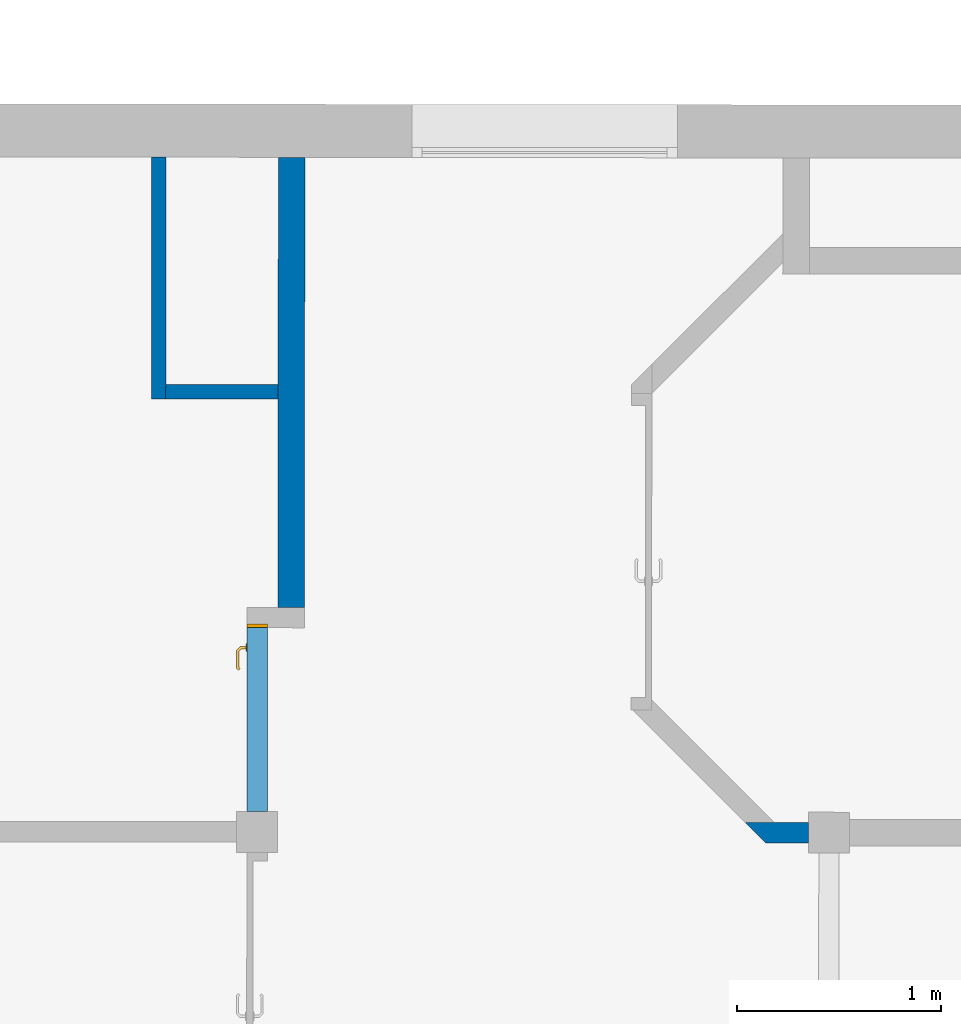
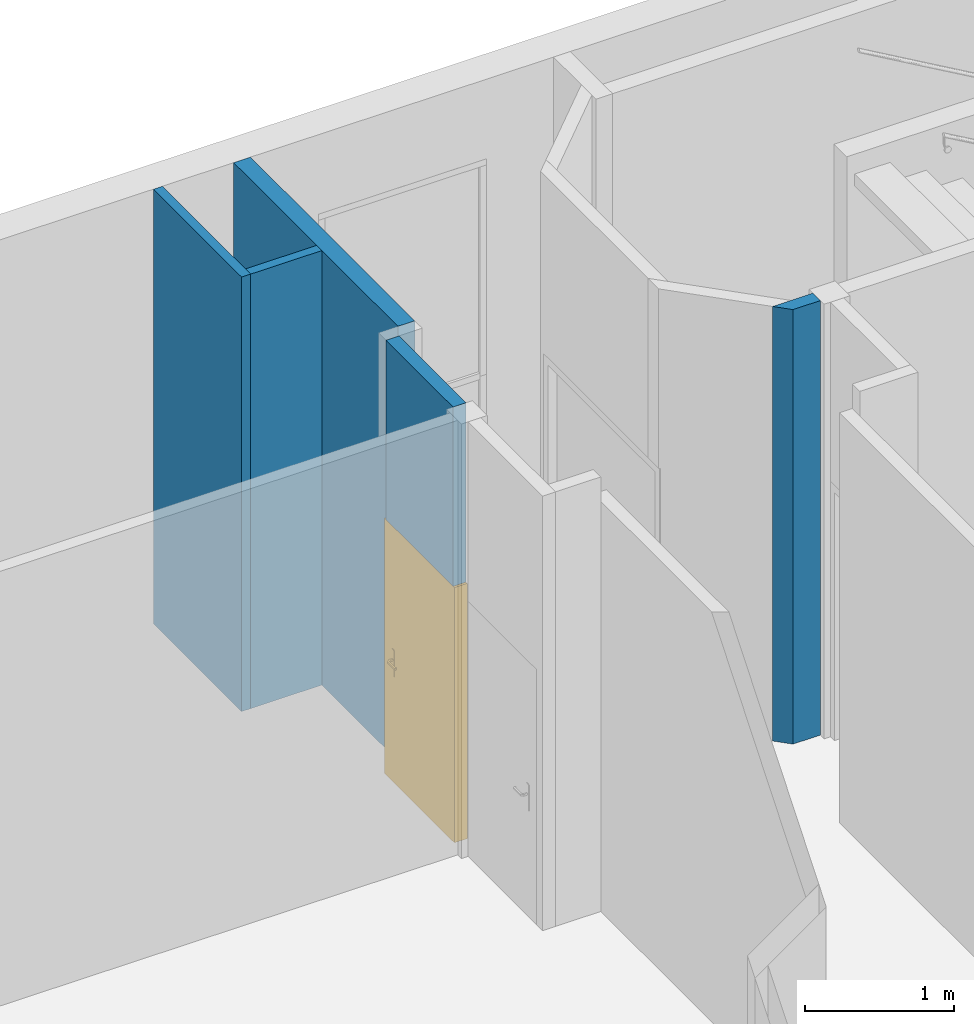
# One storey, part 66 of 101: 5 walls, 1 door, 1 opening.
"""IFC2X3 building model written with IfcOpenShell, lengths in metres."""

import ifcopenshell
import ifcopenshell.guid

model = None  # the IFC model being written
_history = None  # IfcOwnerHistory: only IFC2X3 demands one
_inside = {}  # id of a spatial element -> (the spatial element, [elements in it])
_under = {}  # id of a project, library or spatial element -> (it, [spatial elements below it])
_declared = {}  # id of a project -> (the project, [libraries it declares])
_typed = {}  # id of a type object -> (the type object, [elements of that type])
_made_of = {}  # id of a material, layer set ... -> (it, [elements and type objects made of it])


def new_model(schema):
    """Start an empty IFC model of exactly this schema.

    Asked for "IFC4X3", IfcOpenShell would pick the latest addendum, in which some entities
    have other attributes; the version numbers below select the first issue.
    IFC2X3 requires an IfcOwnerHistory on every rooted entity: one is made here for all.
    """
    global model, _history
    if schema == "IFC4X3":
        model = ifcopenshell.file(schema_version=(4, 3, 0, 0))
    else:
        model = ifcopenshell.file(schema=schema)
    _inside.clear()
    _under.clear()
    _declared.clear()
    _typed.clear()
    _made_of.clear()
    _history = None
    if model.schema == "IFC2X3":
        org = make("IfcOrganization", Name="unknown")
        user = make(
            "IfcPersonAndOrganization",
            ThePerson=make("IfcPerson", FamilyName="unknown"),
            TheOrganization=org,
        )
        app = make(
            "IfcApplication",
            ApplicationDeveloper=org,
            Version="unknown",
            ApplicationFullName="unknown",
            ApplicationIdentifier="unknown",
        )
        _history = make(
            "IfcOwnerHistory",
            OwningUser=user,
            OwningApplication=app,
            ChangeAction="ADDED",
            CreationDate=0,
        )
    return model


def make(cls, **values):
    """One entity of the class cls with the attributes given. An attribute that is None is left unset."""
    return model.create_entity(
        cls, **{name: value for name, value in values.items() if value is not None}
    )


def entity(cls, *values):
    """Any entity or typed value of the class cls, its attributes in the order of the schema. None: left unset."""
    e = model.create_entity(cls)
    for i, value in enumerate(values):
        if value is not None:
            e[i] = value
    return e


def rooted(cls, **values):
    """An entity with a GlobalId (a new one), such as an element, a storey or a relation."""
    return make(cls, GlobalId=ifcopenshell.guid.new(), OwnerHistory=_history, **values)


def si_unit(unit_type, name, prefix=None):
    """IfcSIUnit, for example si_unit("LENGTHUNIT", "METRE", prefix="MILLI")."""
    return make("IfcSIUnit", UnitType=unit_type, Prefix=prefix, Name=name)


def converted_unit(unit_type, name, factor, base, dimensions=None, offset=None):
    """IfcConversionBasedUnit, such as the inch: factor (a typed value) times the base unit."""
    return make(
        "IfcConversionBasedUnit"
        if offset is None
        else "IfcConversionBasedUnitWithOffset",
        ConversionOffset=offset,
        Dimensions=None
        if dimensions is None
        else entity("IfcDimensionalExponents", *dimensions),
        UnitType=unit_type,
        Name=name,
        ConversionFactor=make(
            "IfcMeasureWithUnit", ValueComponent=factor, UnitComponent=base
        ),
    )


def derived_unit(unit_type, elements):
    """IfcDerivedUnit: a product of units, each with its exponent."""
    return make(
        "IfcDerivedUnit",
        Elements=[
            make("IfcDerivedUnitElement", Unit=unit, Exponent=power)
            for unit, power in elements
        ],
        UnitType=unit_type,
    )


def assignment(units):
    """IfcUnitAssignment: the units of a project."""
    return None if units is None else make("IfcUnitAssignment", Units=units)


def point(xyz):
    """IfcCartesianPoint."""
    return None if xyz is None else make("IfcCartesianPoint", Coordinates=xyz)


def direction(xyz):
    """IfcDirection."""
    return None if xyz is None else make("IfcDirection", DirectionRatios=xyz)


def frame(location, z_axis=None, x_axis=None):
    """IfcAxis2Placement3D, a coordinate frame: its origin and axes. An axis left out is left unset."""
    return make(
        "IfcAxis2Placement3D",
        Location=point(location),
        Axis=direction(z_axis),
        RefDirection=direction(x_axis),
    )


def frame_2d(location, x_axis=None):
    """IfcAxis2Placement2D, a coordinate frame in the plane: its origin and x axis."""
    return make(
        "IfcAxis2Placement2D", Location=point(location), RefDirection=direction(x_axis)
    )


def origin():
    """The frame at (0, 0, 0) with its axes left unset."""
    return frame((0.0, 0.0, 0.0))


def place(relative_to, where):
    """IfcLocalPlacement: puts the frame where relative to a parent placement (None: the world)."""
    return make(
        "IfcLocalPlacement", PlacementRelTo=relative_to, RelativePlacement=where
    )


def context(
    kind, dimensions, precision=None, world=None, true_north=None, identifier=None
):
    """IfcGeometricRepresentationContext, for example the 3D "Model" context."""
    return make(
        "IfcGeometricRepresentationContext",
        ContextIdentifier=identifier,
        ContextType=kind,
        CoordinateSpaceDimension=dimensions,
        Precision=precision,
        WorldCoordinateSystem=world,
        TrueNorth=true_north,
    )


def subcontext(parent, identifier, kind, view, scale=None):
    """IfcGeometricRepresentationSubContext, for example "Body" below "Model"."""
    return make(
        "IfcGeometricRepresentationSubContext",
        ContextIdentifier=identifier,
        ContextType=kind,
        ParentContext=parent,
        TargetScale=scale,
        TargetView=view,
    )


def project(units=None, contexts=None):
    """IfcProject with its units and contexts."""
    return rooted(
        "IfcProject",
        Name="project",
        RepresentationContexts=contexts,
        UnitsInContext=assignment(units),
    )


def spatial(cls, under=None, at=None, **own):
    """A site, building, storey or space (cls), placed at a placement, below another one or the project."""
    s = rooted(cls, ObjectPlacement=at, **own)
    if under is not None:
        _under.setdefault(under.id(), (under, []))[1].append(s)
    return s


def polyline(points):
    """IfcPolyline through the points."""
    return make("IfcPolyline", Points=[point(p) for p in points])


def profile(cls, at=None, kind="AREA", **sizes):
    """A parametric profile (cls). Its sizes go by their IFC names, for example OverallWidth=200.0."""
    return make(cls, ProfileType=kind, Position=at, **sizes)


def rectangle(**sizes):
    """IfcRectangleProfileDef."""
    return profile("IfcRectangleProfileDef", **sizes)


def outline(outer, holes=None, kind="AREA"):
    """IfcArbitraryClosedProfileDef: a profile drawn as a closed curve; with holes, ...WithVoids."""
    if holes is None:
        return make("IfcArbitraryClosedProfileDef", ProfileType=kind, OuterCurve=outer)
    return make(
        "IfcArbitraryProfileDefWithVoids",
        ProfileType=kind,
        OuterCurve=outer,
        InnerCurves=holes,
    )


def extrude(swept, where, along, depth):
    """IfcExtrudedAreaSolid: the profile swept, set in the frame where, extruded along a direction by depth."""
    return make(
        "IfcExtrudedAreaSolid",
        SweptArea=swept,
        Position=where,
        ExtrudedDirection=direction(along),
        Depth=depth,
    )


def faces_of(points, faces, orient=None, outer=None):
    """IfcFace entities. A face is a list of loops; a loop is a list of indices into points, from 0.

    orient and outer hold one flag for each loop. By default every Orientation is true, the
    first loop of a face is its IfcFaceOuterBound and the others are IfcFaceBound.
    """
    made = []
    for i, loops in enumerate(faces):
        bounds = []
        for j, loop in enumerate(loops):
            is_outer = j == 0 if outer is None else outer[i][j]
            bounds.append(
                make(
                    "IfcFaceOuterBound" if is_outer else "IfcFaceBound",
                    Bound=make("IfcPolyLoop", Polygon=[points[k] for k in loop]),
                    Orientation=True if orient is None else orient[i][j],
                )
            )
        made.append(make("IfcFace", Bounds=bounds))
    return made


def faceted_brep(points, faces, orient=None, outer=None, voids=None):
    """IfcFacetedBrep: a solid bounded by flat faces; with voids (closed shells), ...WithVoids."""
    shared = [point(p) for p in points]
    hull = make("IfcClosedShell", CfsFaces=faces_of(shared, faces, orient, outer))
    if voids is None:
        return make("IfcFacetedBrep", Outer=hull)
    return make(
        "IfcFacetedBrepWithVoids",
        Outer=hull,
        Voids=[
            make(cls, CfsFaces=faces_of(shared, fs, o, b)) for cls, fs, o, b in voids
        ],
    )


def shape(context_of_items, identifier, shape_type, items):
    """IfcShapeRepresentation: the items that make up one representation, for example the "Body"."""
    return make(
        "IfcShapeRepresentation",
        ContextOfItems=context_of_items,
        RepresentationIdentifier=identifier,
        RepresentationType=shape_type,
        Items=items,
    )


def source(mapping_origin, context_of_items, identifier, shape_type, items):
    """IfcRepresentationMap: a shape defined once, which mapped items show again and again."""
    return make(
        "IfcRepresentationMap",
        MappingOrigin=mapping_origin,
        MappedRepresentation=shape(context_of_items, identifier, shape_type, items),
    )


def transform(
    local_origin,
    x_axis=None,
    y_axis=None,
    z_axis=None,
    scale=None,
    scale2=None,
    scale3=None,
    uniform=True,
):
    """IfcCartesianTransformationOperator3D, or its non-uniform kind. x_axis, y_axis, z_axis: its Axis1, 2, 3."""
    if uniform:
        return make(
            "IfcCartesianTransformationOperator3D",
            Axis1=direction(x_axis),
            Axis2=direction(y_axis),
            LocalOrigin=point(local_origin),
            Scale=scale,
            Axis3=direction(z_axis),
        )
    return make(
        "IfcCartesianTransformationOperator3DnonUniform",
        Axis1=direction(x_axis),
        Axis2=direction(y_axis),
        LocalOrigin=point(local_origin),
        Scale=scale,
        Axis3=direction(z_axis),
        Scale2=scale2,
        Scale3=scale3,
    )


def mapped(mapping_source, mapping_target):
    """IfcMappedItem: shows the shape of a source again, moved by a transform."""
    return make(
        "IfcMappedItem", MappingSource=mapping_source, MappingTarget=mapping_target
    )


def material(Name=None, Category=None):
    """IfcMaterial."""
    return make("IfcMaterial", Name=Name, Category=Category)


def material_list(materials):
    """IfcMaterialList."""
    return make("IfcMaterialList", Materials=materials)


def layer(
    of_material, thickness, ventilated=None, Name=None, Category=None, Priority=None
):
    """IfcMaterialLayer: one layer of a wall or slab, of a material (None: an air gap)."""
    return make(
        "IfcMaterialLayer",
        Material=of_material,
        LayerThickness=thickness,
        IsVentilated=ventilated,
        Name=Name,
        Category=Category,
        Priority=Priority,
    )


def layer_set(layers, Name=None):
    """IfcMaterialLayerSet."""
    return make("IfcMaterialLayerSet", MaterialLayers=layers, LayerSetName=Name)


def layer_usage(for_layer_set, set_direction, sense, offset, extent=None):
    """IfcMaterialLayerSetUsage: how a layer set lies in its element."""
    return make(
        "IfcMaterialLayerSetUsage",
        ForLayerSet=for_layer_set,
        LayerSetDirection=set_direction,
        DirectionSense=sense,
        OffsetFromReferenceLine=offset,
        ReferenceExtent=extent,
    )


def made_of(thing, what):
    """Note that an element or type object is made of a material, layer set ...; save() writes the relation."""
    if what is not None:
        _made_of.setdefault(what.id(), (what, []))[1].append(thing)
    return thing


def type_object(cls, material=None, **own):
    """A type object (cls), such as IfcWallType, which elements share."""
    return made_of(rooted(cls, **own), material)


def type_shapes(of_type, sources):
    """Give a type object the sources (RepresentationMaps) that its elements show as mapped items."""
    of_type.RepresentationMaps = sources


def element(
    cls,
    number,
    at=None,
    inside=None,
    cuts=None,
    type_object=None,
    material=None,
    context=None,
    identifier="Body",
    shape_type=None,
    held_by="IfcProductDefinitionShape",
    body=None,
    shapes=None,
    **own,
):
    """One element of the class cls, such as IfcWall. Its Tag is "e" and its number.

    at: its placement. inside: the storey or other place that contains it. cuts: it is an
    opening in that element (IfcRelVoidsElement). A single representation is given by context,
    identifier, shape_type and body (its items); several are given by shapes. held_by: the class
    of the entity that holds the representations. save() writes the other relations.
    """
    e = rooted(cls, Tag="e%d" % number, ObjectPlacement=at, **own)
    if body is not None:
        shapes = [shape(context, identifier, shape_type, body)]
    if shapes is not None:
        e.Representation = make(held_by, Representations=shapes)
    if inside is not None:
        _inside.setdefault(inside.id(), (inside, []))[1].append(e)
    if cuts is not None:
        rooted(
            "IfcRelVoidsElement", RelatingBuildingElement=cuts, RelatedOpeningElement=e
        )
    if type_object is not None:
        _typed.setdefault(type_object.id(), (type_object, []))[1].append(e)
    return made_of(e, material)


def fill(opening, filler):
    """IfcRelFillsElement: the door or window that sits in an opening."""
    return rooted(
        "IfcRelFillsElement",
        RelatingOpeningElement=opening,
        RelatedBuildingElement=filler,
    )


def aggregate(whole, parts):
    """IfcRelAggregates: a whole, such as a stair, and the parts it consists of."""
    return rooted("IfcRelAggregates", RelatingObject=whole, RelatedObjects=parts)


def save(model, path):
    """Write the relations noted so far, then the file.

    IfcRelAggregates (storeys below a building ...), IfcRelContainedInSpatialStructure (elements
    in a storey), IfcRelDefinesByType, IfcRelAssociatesMaterial and IfcRelDeclares: one each for
    every whole, place, type object, material and project.
    """
    for whole, parts in _under.values():
        aggregate(whole, parts)
    for where, things in _inside.values():
        rooted(
            "IfcRelContainedInSpatialStructure",
            RelatedElements=things,
            RelatingStructure=where,
        )
    for kind, things in _typed.values():
        rooted("IfcRelDefinesByType", RelatedObjects=things, RelatingType=kind)
    for what, things in _made_of.values():
        rooted("IfcRelAssociatesMaterial", RelatedObjects=things, RelatingMaterial=what)
    for by, libraries in _declared.values():
        rooted("IfcRelDeclares", RelatingContext=by, RelatedDefinitions=libraries)
    model.write(path)


model = new_model("IFC2X3")

# Units and contexts
model_context = context("Model", 3, precision=1e-05, world=origin(), true_north=direction((6.123233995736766e-17, 1.0)))
body_context = subcontext(model_context, "Body", "Model", "MODEL_VIEW")
ifc_project = project(units=[si_unit("LENGTHUNIT", "METRE"), si_unit("AREAUNIT", "SQUARE_METRE"), converted_unit("PLANEANGLEUNIT", "DEGREE", entity("IfcPlaneAngleMeasure", 0.017453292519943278), si_unit("PLANEANGLEUNIT", "RADIAN"), dimensions=[0, 0, 0, 0, 0, 0, 0]), derived_unit("THERMALTRANSMITTANCEUNIT", [(si_unit("MASSUNIT", "GRAM", prefix="KILO"), 1), (si_unit("THERMODYNAMICTEMPERATUREUNIT", "KELVIN"), -1), (si_unit("TIMEUNIT", "SECOND"), -3)])], contexts=[model_context])

# Site, building, storey
site_placement = place(None, frame((1253.6752467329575, 2072.143113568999, 91.49999999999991), z_axis=(0.0, 0.0, 1.0), x_axis=(0.7237211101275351, 0.6900925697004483, 0.0)))
site = spatial("IfcSite", under=ifc_project, at=site_placement, Name="Surface", CompositionType="ELEMENT")
building_placement = place(site_placement, origin())
building = spatial("IfcBuilding", under=site, at=building_placement, CompositionType="ELEMENT")
storey_placement = place(building_placement, origin())
storey = spatial("IfcBuildingStorey", under=building, at=storey_placement, Name="0- Rdc", CompositionType="ELEMENT", Elevation=-5.764692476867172e-13)

# Walls
ifc_material_1 = material(Name="OMD_Béton blanc")
ifc_layer_1 = layer(ifc_material_1, 0.12999999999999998)
ifc_layer_set_1 = layer_set([ifc_layer_1], Name="Mur de base:MUR 13")
ifc_layer_usage_1 = layer_usage(ifc_layer_set_1, "AXIS2", "NEGATIVE", 0.06499999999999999)
wall_type_1 = type_object("IfcWallType", Name="Mur de base:MUR 13", PredefinedType="STANDARD", material=ifc_layer_set_1)
wall_1_placement = place(storey_placement, frame((170.15664312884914, 23.561649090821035, 0.0), z_axis=(0.0, 0.0, 1.0), x_axis=(-0.6909838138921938, -0.7228702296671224, 0.0)))
element("IfcWallStandardCase", 1, at=wall_1_placement, inside=storey, type_object=wall_type_1, material=ifc_layer_usage_1, Name="Mur de base:MUR 13", ObjectType="Mur de base:MUR 13", context=body_context, shape_type="SweptSolid", body=[
    extrude(rectangle(XDim=2.2031400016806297, YDim=0.12999999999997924, at=frame_2d((1.1015700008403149, 2.0816681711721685e-16), x_axis=(-1.0, 0.0))), origin(), (0.0, 0.0, 1.0), 3.5499999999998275),
])
ifc_layer_2 = layer(ifc_material_1, 0.1)
ifc_layer_set_2 = layer_set([ifc_layer_2], Name="Mur de base:MUR 10")
ifc_layer_usage_2 = layer_usage(ifc_layer_set_2, "AXIS2", "NEGATIVE", 0.05)
wall_type_2 = type_object("IfcWallType", Name="Mur de base:MUR 10", PredefinedType="STANDARD", material=ifc_layer_set_2)
wall_2_placement = place(storey_placement, frame((169.70670288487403, 19.422263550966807, 0.0), z_axis=(0.0, 0.0, 1.0), x_axis=(-0.7228702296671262, 0.6909838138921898, 0.0)))
element("IfcWallStandardCase", 2, at=wall_2_placement, inside=storey, type_object=wall_type_2, material=ifc_layer_usage_2, Name="Mur de base:MUR 10", ObjectType="Mur de base:MUR 10", context=body_context, shape_type="SweptSolid", body=[
    extrude(outline(polyline([(-0.1505096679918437, -0.0939411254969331), (-0.009088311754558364, -0.0939411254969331), (0.14040916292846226, 0.05555634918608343), (0.06969848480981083, 0.12626702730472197), (-0.05050966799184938, 0.006058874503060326), (-0.1505096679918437, -0.0939411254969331)])), frame((0.1385685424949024, -0.009999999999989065, 0.0), z_axis=(0.0, 0.0, 1.0), x_axis=(-0.707106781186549, 0.7071067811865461, 0.0)), (0.0, 0.0, 1.0), 3.5499999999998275),
])

# Wall, opening, door
ifc_layer_usage_3 = layer_usage(ifc_layer_set_2, "AXIS2", "NEGATIVE", 0.05)
wall_3_placement = place(storey_placement, frame((167.82405164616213, 21.360206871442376, 2.0850000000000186), z_axis=(0.0, 0.0, 1.0), x_axis=(0.6909838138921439, 0.72287022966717, 0.0)))
wall_3 = element("IfcWallStandardCase", 3, at=wall_3_placement, inside=storey, type_object=wall_type_2, material=ifc_layer_usage_3, Name="Mur de base:MUR 10", ObjectType="Mur de base:MUR 10", context=body_context, shape_type="SweptSolid", body=[
    extrude(rectangle(XDim=0.9000000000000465, YDim=0.10000000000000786, at=frame_2d((0.45000000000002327, -7.008282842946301e-16), x_axis=(-1.0, 0.0))), origin(), (0.0, 0.0, 1.0), 1.464999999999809),
])
opening_placement = place(wall_3_placement, frame((-0.017499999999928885, -0.049999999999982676, -2.0850000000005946)))
opening = element("IfcOpeningElement", 4, at=opening_placement, cuts=wall_3, Name="OMD_Porte 1V tunnel:80x204:1", ObjectType="Opening", context=body_context, shape_type="SweptSolid", body=[
    extrude(rectangle(XDim=2.0850000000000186, YDim=0.9349999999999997, at=frame_2d((1.0425000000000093, 0.46749999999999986), x_axis=(1.0, 0.0))), frame((0.0, 0.0, 0.0), z_axis=(0.0, 1.0, 0.0), x_axis=(0.0, 0.0, 1.0)), (0.0, 0.0, 1.0), 0.1),
])
ifc_material_2 = material(Name="Porte - Poignée")
ifc_material_3 = material(Name="OMD_Peinture mur")
ifc_material_4 = material(Name="OMD_Bois")
ifc_material_list = material_list([ifc_material_2, ifc_material_3, ifc_material_4])
door_style = type_object("IfcDoorStyle", Name="OMD_Porte 1V tunnel:80x204", ConstructionType="NOTDEFINED", OperationType="NOTDEFINED", ParameterTakesPrecedence=False, Sizeable=False, material=ifc_material_list)
shared_shape = source(origin(), body_context, "Body", "Brep", [
    faceted_brep([(0.21297470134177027, 0.03500000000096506, 1.0077804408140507), (0.20900000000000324, 0.03500000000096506, 1.0069999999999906), (0.208999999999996, 0.03500000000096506, 0.9929999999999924), (0.21297470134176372, 0.03500000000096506, 0.9922195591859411), (0.21702529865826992, 0.03500000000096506, 0.9922195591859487), (0.22100000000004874, 0.03500000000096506, 0.9930000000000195), (0.22100000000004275, 0.03500000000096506, 1.0069999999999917), (0.2170252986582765, 0.03500000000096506, 1.007780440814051), (0.22100000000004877, 0.05748520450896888, 0.9930000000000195), (0.22100000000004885, 0.057485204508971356, 1.0069999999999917), (0.21702529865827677, 0.059131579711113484, 1.007780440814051), (0.23083890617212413, 0.07294518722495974, 1.007780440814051), (0.2291610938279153, 0.07699578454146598, 1.0077804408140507), (0.21297470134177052, 0.060809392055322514, 1.0077804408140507), (0.3206847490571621, 0.0664673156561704, 1.0077804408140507), (0.32354895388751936, 0.06933152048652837, 1.0077804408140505), (0.31588468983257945, 0.07699578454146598, 1.0077804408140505), (0.31420687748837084, 0.07294518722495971, 1.0077804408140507), (0.20900000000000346, 0.06245576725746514, 1.0069999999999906), (0.20900000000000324, 0.06245576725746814, 0.9929999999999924), (0.21297470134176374, 0.06080939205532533, 0.9922195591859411), (0.22916109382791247, 0.07699578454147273, 0.9922195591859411), (0.23083890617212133, 0.07294518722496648, 0.9922195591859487), (0.21702529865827, 0.05913157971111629, 0.9922195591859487), (0.32354895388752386, 0.06933152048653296, 0.9922195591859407), (0.3206847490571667, 0.06646731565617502, 0.9922195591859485), (0.3142068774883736, 0.07294518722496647, 0.9922195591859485), (0.3158846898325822, 0.07699578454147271, 0.9922195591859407), (0.23248528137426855, 0.0689704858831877, 0.9930000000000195), (0.23248528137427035, 0.06897048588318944, 1.0069999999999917), (0.22751471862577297, 0.0809704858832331, 1.0069999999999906), (0.22751471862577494, 0.08097048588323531, 0.9929999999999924), (0.2725228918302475, 0.06897048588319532, 0.9930000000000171), (0.3125605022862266, 0.06897048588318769, 0.9930000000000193), (0.31256050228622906, 0.06897048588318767, 1.0069999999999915), (0.2725228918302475, 0.0689704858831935, 1.0069999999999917), (0.2725228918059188, 0.07512492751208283, 1.0078781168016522), (0.31753106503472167, 0.08097048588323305, 1.0069999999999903), (0.2776005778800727, 0.08097048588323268, 1.0069999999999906), (0.31753106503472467, 0.08097048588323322, 0.9929999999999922), (0.2674452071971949, 0.08097048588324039, 0.9929999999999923), (0.2725228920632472, 0.07512492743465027, 0.9921218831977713), (0.317874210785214, 0.06365677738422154, 0.9930000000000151), (0.32635949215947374, 0.07214205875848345, 0.99299999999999), (0.3263594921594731, 0.07214205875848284, 1.0069999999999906), (0.317874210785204, 0.06365677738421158, 1.0069999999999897)], [[[0, 1, 2, 3, 4, 5, 6, 7]], [[6, 5, 8, 9]], [[9, 10, 7, 6]], [[10, 11, 12, 13, 0, 7]], [[14, 15, 16, 17]], [[13, 18, 1, 0]], [[2, 1, 18, 19]], [[19, 20, 3, 2]], [[20, 21, 22, 23, 4, 3]], [[24, 25, 26, 27]], [[23, 8, 5, 4]], [[9, 8, 28, 29]], [[29, 11, 10, 9]], [[12, 30, 18, 13]], [[19, 18, 30, 31]], [[31, 21, 20, 19]], [[22, 28, 8, 23]], [[29, 28, 32, 33, 34, 35]], [[11, 35, 36]], [[16, 37, 38]], [[30, 12, 38]], [[38, 12, 36]], [[36, 35, 17]], [[17, 16, 36]], [[35, 11, 29]], [[34, 17, 35]], [[11, 36, 12]], [[38, 36, 16]], [[31, 30, 38, 37, 39, 40]], [[40, 41, 21]], [[41, 40, 27]], [[21, 31, 40]], [[39, 27, 40]], [[41, 32, 22]], [[22, 21, 41]], [[26, 32, 41]], [[28, 22, 32]], [[32, 26, 33]], [[26, 41, 27]], [[42, 25, 24, 43, 44, 15, 14, 45]], [[34, 33, 42, 45]], [[45, 14, 17, 34]], [[15, 44, 37, 16]], [[39, 37, 44, 43]], [[43, 24, 27, 39]], [[25, 42, 33, 26]]]),
    faceted_brep([(0.21297470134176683, -0.004999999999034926, 1.0077804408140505), (0.2170252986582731, -0.004999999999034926, 1.007780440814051), (0.2210000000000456, -0.004999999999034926, 1.006999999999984), (0.22100000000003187, -0.004999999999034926, 0.9930000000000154), (0.21702529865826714, -0.004999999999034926, 0.9922195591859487), (0.21297470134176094, -0.004999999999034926, 0.992219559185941), (0.20900000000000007, -0.004999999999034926, 0.992999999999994), (0.20900000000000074, -0.004999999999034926, 1.0069999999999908), (0.20900000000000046, -0.03265095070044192, 1.0069999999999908), (0.21297470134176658, -0.03100457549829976, 1.0077804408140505), (0.22902358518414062, -0.04705345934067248, 1.0077804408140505), (0.2307013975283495, -0.04300286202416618, 1.007780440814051), (0.21702529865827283, -0.02932676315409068, 1.007780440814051), (0.3235218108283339, -0.039389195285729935, 1.0077804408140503), (0.3206576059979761, -0.03652499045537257, 1.0077804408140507), (0.3141797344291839, -0.04300286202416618, 1.0077804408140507), (0.31585754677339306, -0.04705345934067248, 1.0077804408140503), (0.22100000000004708, -0.027680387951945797, 1.0069999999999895), (0.22100000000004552, -0.02768038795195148, 0.9930000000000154), (0.21702529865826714, -0.029326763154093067, 0.9922195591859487), (0.23070139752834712, -0.04300286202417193, 0.9922195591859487), (0.2290235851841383, -0.0470534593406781, 0.992219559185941), (0.21297470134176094, -0.031004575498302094, 0.992219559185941), (0.32065760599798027, -0.036524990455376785, 0.9922195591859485), (0.3235218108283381, -0.03938919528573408, 0.9922195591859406), (0.31585754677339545, -0.047053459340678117, 0.9922195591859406), (0.3141797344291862, -0.04300286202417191, 0.9922195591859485), (0.20899999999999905, -0.032650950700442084, 0.9929999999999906), (0.22737720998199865, -0.051028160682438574, 1.0069999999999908), (0.23234777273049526, -0.03902816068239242, 1.0069999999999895), (0.23234777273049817, -0.03902816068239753, 0.9930000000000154), (0.22737720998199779, -0.051028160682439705, 0.9929999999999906), (0.2673076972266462, -0.05102816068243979, 1.0069999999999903), (0.272440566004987, -0.0451828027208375, 1.0078781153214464), (0.3175039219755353, -0.05102816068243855, 1.0069999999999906), (0.27244056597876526, -0.039028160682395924, 1.0069999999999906), (0.3125333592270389, -0.03902816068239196, 1.0069999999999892), (0.31253335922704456, -0.03902816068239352, 0.9930000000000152), (0.27244056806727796, -0.03902816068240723, 0.9930000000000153), (0.27244056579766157, -0.04518280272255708, 0.9921218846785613), (0.3175039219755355, -0.051028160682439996, 0.9929999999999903), (0.27757344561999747, -0.051028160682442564, 0.9929999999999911), (0.3178470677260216, -0.03371445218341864, 1.0069999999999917), (0.3263323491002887, -0.04219973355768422, 1.0069999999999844), (0.3263323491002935, -0.04219973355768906, 0.9929999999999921), (0.31784706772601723, -0.033714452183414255, 0.9930000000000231)], [[[0, 1, 2, 3, 4, 5, 6, 7]], [[8, 9, 0, 7]], [[9, 10, 11, 12, 1, 0]], [[13, 14, 15, 16]], [[12, 17, 2, 1]], [[3, 2, 17, 18]], [[18, 19, 4, 3]], [[19, 20, 21, 22, 5, 4]], [[23, 24, 25, 26]], [[22, 27, 6, 5]], [[7, 6, 27, 8]], [[28, 10, 9, 8]], [[11, 29, 17, 12]], [[18, 17, 29, 30]], [[30, 20, 19, 18]], [[21, 31, 27, 22]], [[8, 27, 31, 28]], [[32, 33, 10]], [[33, 32, 16]], [[10, 28, 32]], [[34, 16, 32]], [[33, 35, 11]], [[11, 10, 33]], [[15, 35, 33]], [[29, 11, 35]], [[35, 15, 36]], [[15, 33, 16]], [[30, 29, 35, 36, 37, 38]], [[20, 38, 39]], [[25, 40, 41]], [[31, 21, 41]], [[41, 21, 39]], [[39, 38, 26]], [[26, 25, 39]], [[38, 20, 30]], [[37, 26, 38]], [[20, 39, 21]], [[41, 39, 25]], [[28, 31, 41, 40, 34, 32]], [[42, 14, 13, 43, 44, 24, 23, 45]], [[43, 13, 16, 34]], [[14, 42, 36, 15]], [[37, 36, 42, 45]], [[45, 23, 26, 37]], [[24, 44, 40, 25]], [[34, 40, 44, 43]]]),
    faceted_brep([(0.22535276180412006, 0.030000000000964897, 0.8660039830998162), (0.2350000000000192, 0.030000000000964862, 0.8700000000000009), (0.2350000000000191, 0.030000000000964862, 1.0800000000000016), (0.2253527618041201, 0.030000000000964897, 1.0839960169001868), (0.21500000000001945, 0.030000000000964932, 1.0853589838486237), (0.20464723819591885, 0.03000000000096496, 1.0839960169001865), (0.19500000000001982, 0.030000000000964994, 1.0800000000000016), (0.19500000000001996, 0.030000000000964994, 0.8700000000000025), (0.20464723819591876, 0.03000000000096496, 0.866003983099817), (0.21500000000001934, 0.030000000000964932, 0.8646410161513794), (0.22535276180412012, 0.0350000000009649, 1.0839960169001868), (0.2350000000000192, 0.03500000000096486, 1.0800000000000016), (0.23500000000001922, 0.03500000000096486, 0.8700000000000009), (0.22535276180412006, 0.0350000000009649, 0.8660039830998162), (0.21500000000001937, 0.03500000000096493, 0.8646410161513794), (0.20464723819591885, 0.03500000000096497, 0.866003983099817), (0.19500000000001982, 0.035000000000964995, 0.8700000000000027), (0.19500000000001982, 0.035000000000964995, 1.0800000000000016), (0.20464723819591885, 0.03500000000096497, 1.0839960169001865), (0.21500000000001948, 0.03500000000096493, 1.0853589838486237)], [[[0, 1, 2, 3, 4, 5, 6, 7, 8, 9]], [[10, 11, 12, 13, 14, 15, 16, 17, 18, 19]], [[11, 10, 3, 2]], [[3, 10, 19, 4]], [[19, 18, 5, 4]], [[18, 17, 6, 5]], [[7, 6, 17, 16]], [[16, 15, 8, 7]], [[8, 15, 14, 9]], [[14, 13, 0, 9]], [[13, 12, 1, 0]], [[2, 1, 12, 11]]]),
    faceted_brep([(0.22535276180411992, -0.004999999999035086, 0.8660039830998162), (0.2350000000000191, -0.004999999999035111, 0.8700000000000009), (0.23500000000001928, -0.004999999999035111, 1.0800000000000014), (0.22535276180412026, -0.004999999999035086, 1.0839960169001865), (0.2150000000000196, -0.004999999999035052, 1.0853589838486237), (0.20464723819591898, -0.0049999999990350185, 1.0839960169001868), (0.19500000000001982, -0.004999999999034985, 1.0800000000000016), (0.19500000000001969, -0.004999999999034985, 0.8700000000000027), (0.20464723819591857, -0.0049999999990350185, 0.8660039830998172), (0.21500000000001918, -0.004999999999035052, 0.8646410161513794), (0.22535276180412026, 0.0, 1.0839960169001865), (0.2350000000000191, 0.0, 1.0800000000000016), (0.2350000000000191, 0.0, 0.8700000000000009), (0.22535276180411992, 0.0, 0.8660039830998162), (0.21500000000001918, 0.0, 0.8646410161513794), (0.20464723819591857, 0.0, 0.8660039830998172), (0.19500000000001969, 0.0, 0.8700000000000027), (0.19500000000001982, 0.0, 1.0800000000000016), (0.20464723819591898, 0.0, 1.0839960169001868), (0.2150000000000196, 0.0, 1.0853589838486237)], [[[0, 1, 2, 3, 4, 5, 6, 7, 8, 9]], [[10, 11, 12, 13, 14, 15, 16, 17, 18, 19]], [[16, 15, 8, 7]], [[8, 15, 14, 9]], [[14, 13, 0, 9]], [[13, 12, 1, 0]], [[2, 1, 12, 11]], [[11, 10, 3, 2]], [[3, 10, 19, 4]], [[19, 18, 5, 4]], [[18, 17, 6, 5]], [[7, 6, 17, 16]]]),
    faceted_brep([(0.14500000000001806, 0.030000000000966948, 0.0), (0.9900000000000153, 0.030000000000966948, 0.0), (0.9900000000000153, 0.0, 0.0), (0.14500000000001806, 0.0, 0.0), (0.14500000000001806, 0.030000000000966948, 2.04), (0.14500000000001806, 0.0, 2.04), (0.9900000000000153, 0.0, 2.04), (0.9900000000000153, 0.030000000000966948, 2.04)], [[[0, 1, 2, 3]], [[4, 0, 3, 5]], [[5, 3, 2, 6]], [[6, 2, 1, 7]], [[7, 1, 0, 4]], [[4, 5, 6, 7]]]),
    faceted_brep([(0.10000000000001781, 0.0, 0.0), (0.10000000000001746, 0.10000000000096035, 0.0), (0.16000000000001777, 0.10000000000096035, 0.0), (0.16000000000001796, 0.03000000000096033, 0.0), (0.145000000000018, 0.03000000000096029, 0.0), (0.14500000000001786, 0.0, 0.0), (0.145000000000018, 0.0, 2.04), (0.9900000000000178, 0.0, 2.0400000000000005), (0.9900000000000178, 0.0, 0.0), (1.0350000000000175, 0.0, 0.0), (1.0350000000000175, 0.0, 2.085), (0.10000000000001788, 0.0, 2.085), (0.14500000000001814, 0.030000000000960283, 2.04), (0.16000000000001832, 0.03000000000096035, 2.0249999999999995), (0.9750000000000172, 0.03000000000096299, 2.0249999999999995), (0.9750000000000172, 0.03000000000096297, 0.0), (0.9900000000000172, 0.03000000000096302, 0.0), (0.9900000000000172, 0.03000000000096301, 2.0399999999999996), (0.16000000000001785, 0.10000000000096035, 2.0249999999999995), (0.1000000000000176, 0.10000000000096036, 2.085), (1.0350000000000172, 0.10000000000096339, 2.085), (1.0350000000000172, 0.10000000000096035, 0.0), (0.9750000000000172, 0.10000000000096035, 0.0), (0.9750000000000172, 0.10000000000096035, 2.025)], [[[0, 1, 2, 3, 4, 5]], [[5, 6, 7, 8, 9, 10, 11, 0]], [[4, 12, 6, 5]], [[3, 13, 14, 15, 16, 17, 12, 4]], [[2, 18, 13, 3]], [[1, 19, 20, 21, 22, 23, 18, 2]], [[0, 11, 19, 1]], [[10, 9, 21, 20]], [[9, 8, 16, 15, 22, 21]], [[17, 16, 8, 7]], [[23, 22, 15, 14]], [[12, 17, 7, 6]], [[18, 23, 14, 13]], [[11, 10, 20, 19]]]),
])
type_shapes(door_style, [shared_shape])
door_placement = place(opening_placement, frame((1.0349999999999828, 0.10000000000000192, 0.0), z_axis=(0.0, 0.0, 1.0), x_axis=(-1.0, 0.0, 0.0)))
door = element("IfcDoor", 5, at=door_placement, inside=storey, type_object=door_style, material=ifc_material_list, Name="OMD_Porte 1V tunnel:80x204", ObjectType="OMD_Porte 1V tunnel:80x204", OverallHeight=2.0850000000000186, OverallWidth=0.935000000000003, context=body_context, shape_type="MappedRepresentation", body=[
    mapped(shared_shape, transform((0.0, 0.0, 0.0), scale=1.0)),
])
fill(opening, door)

# Walls
ifc_layer_3 = layer(ifc_material_1, 0.07)
ifc_layer_set_3 = layer_set([ifc_layer_3], Name="Mur de base:MUR 7")
ifc_layer_usage_4 = layer_usage(ifc_layer_set_3, "AXIS2", "NEGATIVE", 0.035)
wall_type_3 = type_object("IfcWallType", Name="Mur de base:MUR 7", PredefinedType="STANDARD", material=ifc_layer_set_3)
wall_4_placement = place(storey_placement, frame((168.8692468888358, 23.155531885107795, 0.0), z_axis=(0.0, 0.0, 1.0), x_axis=(0.6909838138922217, 0.7228702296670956, 0.0)))
element("IfcWallStandardCase", 6, at=wall_4_placement, inside=storey, type_object=wall_type_3, material=ifc_layer_usage_4, Name="Mur de base:MUR 7", ObjectType="Mur de base:MUR 7", context=body_context, shape_type="SweptSolid", body=[
    extrude(rectangle(XDim=1.1831400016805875, YDim=0.06999999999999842, at=frame_2d((0.5915700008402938, 1.97758476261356e-16), x_axis=(-1.0, 0.0))), origin(), (0.0, 0.0, 1.0), 3.5499999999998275),
])
ifc_layer_usage_5 = layer_usage(ifc_layer_set_3, "AXIS2", "NEGATIVE", 0.035)
wall_5_placement = place(storey_placement, frame((169.3163104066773, 22.77660681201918, 0.0), z_axis=(0.0, 0.0, 1.0), x_axis=(-0.7228702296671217, 0.6909838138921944, 0.0)))
element("IfcWallStandardCase", 7, at=wall_5_placement, inside=storey, type_object=wall_type_3, material=ifc_layer_usage_5, Name="Mur de base:MUR 7", ObjectType="Mur de base:MUR 7", context=body_context, shape_type="SweptSolid", body=[
    extrude(rectangle(XDim=0.5500000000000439, YDim=0.06999999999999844, at=frame_2d((0.27500000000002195, 8.257283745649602e-16), x_axis=(-1.0, 0.0))), origin(), (0.0, 0.0, 1.0), 3.5499999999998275),
])

save(model, "model.ifc")
